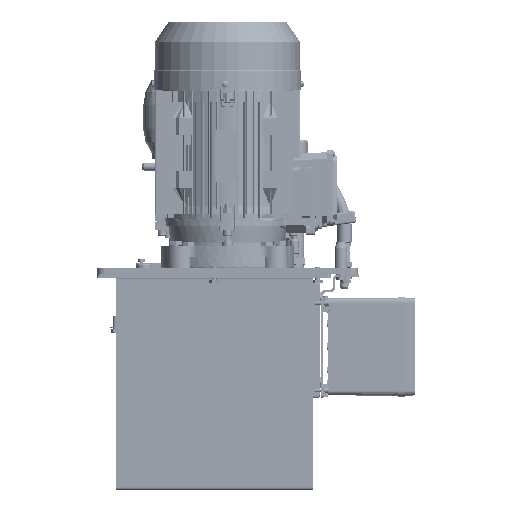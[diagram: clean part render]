
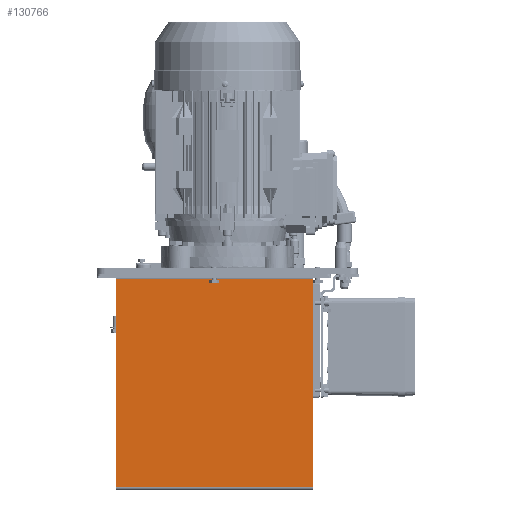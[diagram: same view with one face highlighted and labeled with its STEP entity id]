
A CAD part, left-side view. The second image highlights one B-rep face of the part: STEP entity #130766.
In plain terms, the highlighted planar face has unit normal (-1, 0, 0).
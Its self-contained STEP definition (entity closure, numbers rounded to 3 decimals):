
#16620=FACE_OUTER_BOUND('',#24035,.T.);
#24035=EDGE_LOOP('',(#107298,#107299,#107300,#107301));
#35016=LINE('',#231075,#45580);
#35018=LINE('',#231084,#45582);
#35019=LINE('',#231085,#45583);
#35020=LINE('',#231086,#45584);
#45580=VECTOR('',#170723,295.);
#45582=VECTOR('',#170731,295.);
#45583=VECTOR('',#170732,312.);
#45584=VECTOR('',#170733,312.);
#57060=VERTEX_POINT('',#231073);
#57061=VERTEX_POINT('',#231074);
#57064=VERTEX_POINT('',#231082);
#57065=VERTEX_POINT('',#231083);
#74235=EDGE_CURVE('',#57060,#57061,#35016,.T.);
#74239=EDGE_CURVE('',#57064,#57065,#35018,.T.);
#74240=EDGE_CURVE('',#57065,#57061,#35019,.T.);
#74241=EDGE_CURVE('',#57060,#57064,#35020,.T.);
#107298=ORIENTED_EDGE('',*,*,#74239,.T.);
#107299=ORIENTED_EDGE('',*,*,#74240,.T.);
#107300=ORIENTED_EDGE('',*,*,#74235,.F.);
#107301=ORIENTED_EDGE('',*,*,#74241,.T.);
#117609=PLANE('',#141172);
#130766=ADVANCED_FACE('',(#16620),#117609,.F.);
#141172=AXIS2_PLACEMENT_3D('',#231081,#170729,#170730);
#170723=DIRECTION('',(0.,1.,0.));
#170729=DIRECTION('center_axis',(1.,0.,0.));
#170730=DIRECTION('ref_axis',(0.,0.,1.));
#170731=DIRECTION('',(0.,1.,0.));
#170732=DIRECTION('',(0.,0.,-1.));
#170733=DIRECTION('',(0.,0.,1.));
#231073=CARTESIAN_POINT('',(-382.915,-192.856,-213.825));
#231074=CARTESIAN_POINT('',(-382.915,102.144,-213.825));
#231075=CARTESIAN_POINT('',(-382.915,102.144,-213.825));
#231081=CARTESIAN_POINT('Origin',(-382.915,-45.356,-57.825));
#231082=CARTESIAN_POINT('',(-382.915,-192.856,98.175));
#231083=CARTESIAN_POINT('',(-382.915,102.144,98.175));
#231084=CARTESIAN_POINT('',(-382.915,28.394,98.175));
#231085=CARTESIAN_POINT('',(-382.915,102.144,102.175));
#231086=CARTESIAN_POINT('',(-382.915,-192.856,-217.825));
